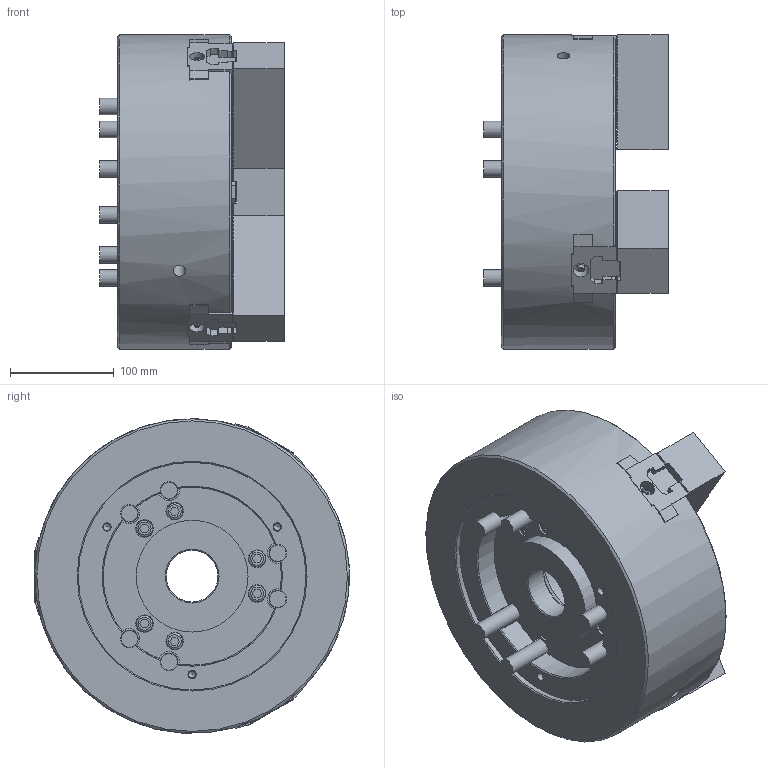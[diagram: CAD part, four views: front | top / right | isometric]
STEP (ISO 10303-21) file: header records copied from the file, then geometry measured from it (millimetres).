
FILE_DESCRIPTION (( 'STEP AP214' ), '1' );
FILE_NAME ('B-212_61P214656-6_UC.STEP', '2020-10-22T04:38:19', ( '' ), ( '' ), 'SwSTEP 2.0', 'SolidWorks 2017', '' );
FILE_SCHEMA (( 'AUTOMOTIVE_DESIGN' ));
Length unit declared in the file: millimetre
Products named in the file (5): B-212_BASE^61P214929-7_クミタテ; Bアナツキ M16×40; 61P318349-4_ソフトジョー; 61P417264-0_T僫僢僩; B-212_61P214656-6_UC
Assembly tree (13 placements, depth 2):
  B-212_61P214656-6_UC
    61P417264-0_T僫僢僩  x3
    61P318349-4_ソフトジョー  x3
    Bアナツキ M16×40  x6
    B-212_BASE^61P214929-7_クミタテ
Bounding box: 178.2 x 303.82 x 303.71 mm (x, y, z)
Volume: 7487162.9 mm3; surface area: 597202 mm2
Topology: 13 solids, 22 shells, 3960 faces, 11382 edges, 7555 vertices
Faces by surface type: plane 3203, cylinder 536, bspline 113, cone 84, torus 18, sphere 6
Full cylindrical faces by diameter (mm): 1.9 x3, 6 x3, 6.6 x3, 6.8 x3, 8 x3, 10 x6, 10.2 x2, 10.5 x3, 11 x9, 12 x2, 15 x3, 16 x24, 17 x18, 24 x12, 25 x6, 26 x6, 50 x1, 91 x2, 96 x1, 101 x1, 108 x1, 117 x1, 220 x1, 304 x1
Entity records: 97761 total; most frequent: CARTESIAN_POINT 24139, ORIENTED_EDGE 16466, DIRECTION 13390, EDGE_CURVE 8233, LINE 6570, VECTOR 6570, VERTEX_POINT 5527, AXIS2_PLACEMENT_3D 3410
